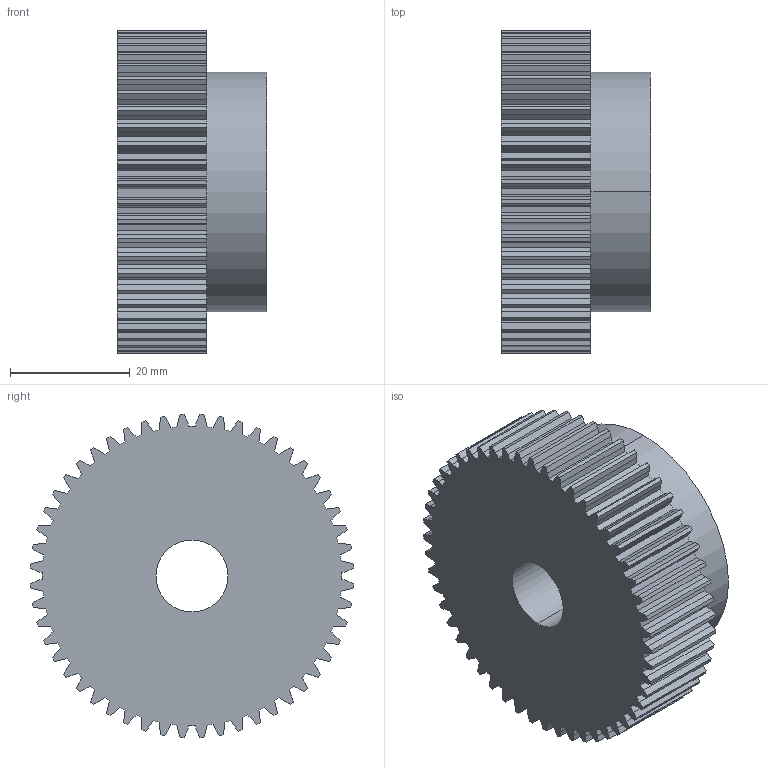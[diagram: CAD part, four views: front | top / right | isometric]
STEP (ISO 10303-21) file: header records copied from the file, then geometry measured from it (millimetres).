
FILE_DESCRIPTION (( 'STEP AP203' ), '1' );
FILE_NAME ('PM 26052.STEP', '2013-09-23T13:24:16', ( '' ), ( '' ), 'SwSTEP 2.0', 'SolidWorks 2010', '' );
FILE_SCHEMA (( 'CONFIG_CONTROL_DESIGN' ));
Length unit declared in the file: millimetre
Products named in the file (1): PM 26052
Bounding box: 25 x 53.94 x 53.94 mm (x, y, z)
Volume: 41338.6 mm3; surface area: 10812.4 mm2
Topology: 1 solids, 1 shells, 319 faces, 948 edges, 632 vertices
Faces by surface type: plane 211, cylinder 108
Entity records: 10761 total; most frequent: CARTESIAN_POINT 1906, ORIENTED_EDGE 1896, DIRECTION 1802, EDGE_CURVE 948, VECTOR 730, LINE 730, VERTEX_POINT 632, AXIS2_PLACEMENT_3D 536
